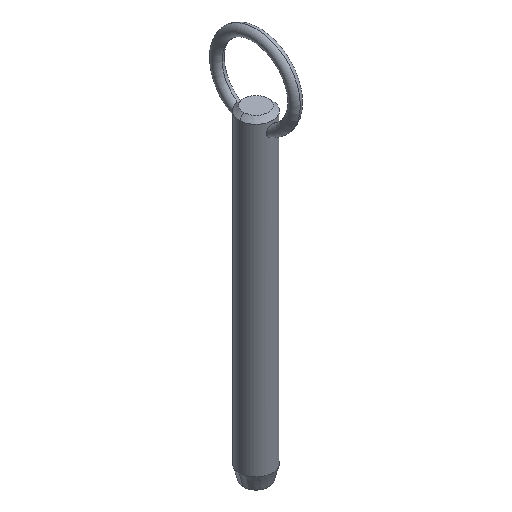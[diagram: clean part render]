
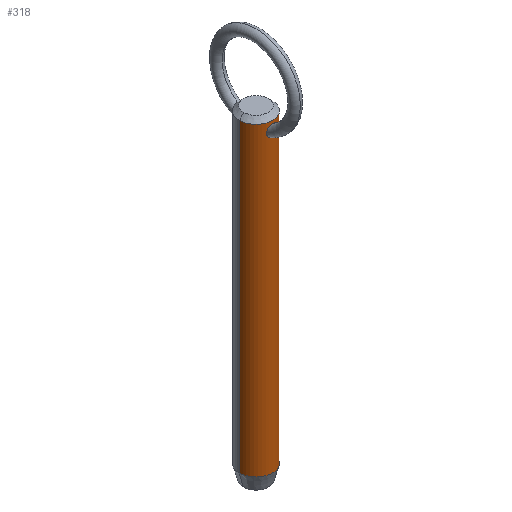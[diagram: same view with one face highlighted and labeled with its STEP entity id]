
A CAD part, isometric view. The second image highlights one B-rep face of the part: STEP entity #318.
In plain terms, the highlighted cylindrical face has radius 4.76 mm (diameter 9.52 mm), a partial arc.
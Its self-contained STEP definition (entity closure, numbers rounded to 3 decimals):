
#4 = CARTESIAN_POINT ( 'NONE',  ( 1.385, -4.554, 75.532 ) ) ;
#6 = CARTESIAN_POINT ( 'NONE',  ( 0., -4.76, 74.626 ) ) ;
#7 = FACE_OUTER_BOUND ( 'NONE', #245, .T. ) ;
#11 = CYLINDRICAL_SURFACE ( 'NONE', #28, 4.76 ) ;
#13 = ORIENTED_EDGE ( 'NONE', *, *, #431, .F. ) ;
#19 = CARTESIAN_POINT ( 'NONE',  ( -0.504, -4.734, 77.838 ) ) ;
#22 = DIRECTION ( 'NONE',  ( 0., 0., -1. ) ) ;
#28 = AXIS2_PLACEMENT_3D ( 'NONE', #85, #338, #89 ) ;
#29 = CARTESIAN_POINT ( 'NONE',  ( 1.404, -4.548, 76.753 ) ) ;
#31 = CARTESIAN_POINT ( 'NONE',  ( -0.932, -4.67, 77.545 ) ) ;
#35 = CARTESIAN_POINT ( 'NONE',  ( 1.19, -4.611, 77.224 ) ) ;
#38 = VERTEX_POINT ( 'NONE', #67 ) ;
#40 = EDGE_CURVE ( 'NONE', #352, #255, #84, .T. ) ;
#44 = CARTESIAN_POINT ( 'NONE',  ( 4.76, 0., 78.75 ) ) ;
#46 = CARTESIAN_POINT ( 'NONE',  ( 0.512, -4.733, 74.708 ) ) ;
#52 = LINE ( 'NONE', #56, #484 ) ;
#54 = EDGE_CURVE ( 'NONE', #38, #330, #240, .T. ) ;
#56 = CARTESIAN_POINT ( 'NONE',  ( 4.76, 0., 73.7 ) ) ;
#63 = CARTESIAN_POINT ( 'NONE',  ( -0.416, -4.746, 74.667 ) ) ;
#66 = CARTESIAN_POINT ( 'NONE',  ( 0., 0., -8.7 ) ) ;
#67 = CARTESIAN_POINT ( 'NONE',  ( 0., -4.76, 74.626 ) ) ;
#74 = CARTESIAN_POINT ( 'NONE',  ( 1.24, -4.596, 75.26 ) ) ;
#76 = CARTESIAN_POINT ( 'NONE',  ( 1.499, -4.518, 76.037 ) ) ;
#84 = LINE ( 'NONE', #324, #335 ) ;
#85 = CARTESIAN_POINT ( 'NONE',  ( 0., 0., 73.7 ) ) ;
#88 = CARTESIAN_POINT ( 'NONE',  ( 0.208, -4.757, 74.636 ) ) ;
#89 = DIRECTION ( 'NONE',  ( -1., 0., 0. ) ) ;
#105 = CARTESIAN_POINT ( 'NONE',  ( -1.039, -4.646, 75.026 ) ) ;
#107 = CARTESIAN_POINT ( 'NONE',  ( 0.409, -4.743, 77.878 ) ) ;
#116 = DIRECTION ( 'NONE',  ( 0., 0., 1. ) ) ;
#121 = CARTESIAN_POINT ( 'NONE',  ( 1.503, -4.517, 76.14 ) ) ;
#141 = EDGE_LOOP ( 'NONE', ( #341, #445 ) ) ;
#151 = CARTESIAN_POINT ( 'NONE',  ( -1.247, -4.596, 75.252 ) ) ;
#158 = CARTESIAN_POINT ( 'NONE',  ( -0.208, -4.757, 77.934 ) ) ;
#168 = CARTESIAN_POINT ( 'NONE',  ( 0.97, -4.662, 74.95 ) ) ;
#176 = CARTESIAN_POINT ( 'NONE',  ( 1.45, -4.534, 75.728 ) ) ;
#183 = CARTESIAN_POINT ( 'NONE',  ( 0., 0., 78.75 ) ) ;
#184 = EDGE_CURVE ( 'NONE', #371, #352, #327, .T. ) ;
#187 = CARTESIAN_POINT ( 'NONE',  ( -1.508, -4.515, 76.037 ) ) ;
#195 = CARTESIAN_POINT ( 'NONE',  ( 0.997, -4.655, 77.464 ) ) ;
#199 = CARTESIAN_POINT ( 'NONE',  ( 1.478, -4.525, 76.452 ) ) ;
#206 = EDGE_CURVE ( 'NONE', #255, #275, #253, .T. ) ;
#220 = AXIS2_PLACEMENT_3D ( 'NONE', #183, #478, #513 ) ;
#228 = ORIENTED_EDGE ( 'NONE', *, *, #40, .T. ) ;
#230 = CARTESIAN_POINT ( 'NONE',  ( 0., -4.76, 74.626 ) ) ;
#232 = CARTESIAN_POINT ( 'NONE',  ( -1.292, -4.582, 77.045 ) ) ;
#233 = CARTESIAN_POINT ( 'NONE',  ( 0.687, -4.711, 77.735 ) ) ;
#234 = CARTESIAN_POINT ( 'NONE',  ( -0.777, -4.7, 77.685 ) ) ;
#238 = ORIENTED_EDGE ( 'NONE', *, *, #184, .T. ) ;
#240 = B_SPLINE_CURVE_WITH_KNOTS ( 'NONE', 3,
 ( #230, #317, #63, #321, #278, #358, #105, #151, #446, #448, #187, #267, #315, #232, #518, #31, #234, #19, #410, #158, #488, #351 ),
 .UNSPECIFIED., .F., .F.,
 ( 4, 2, 2, 2, 2, 2, 2, 2, 2, 2, 4 ),
 ( 0.009, 0.01, 0.01, 0.011, 0.011, 0.012, 0.012, 0.013, 0.014, 0.014, 0.014 ),
 .UNSPECIFIED. ) ;
#245 = EDGE_LOOP ( 'NONE', ( #13, #238, #228, #428 ) ) ;
#250 = CARTESIAN_POINT ( 'NONE',  ( 0.797, -4.697, 74.829 ) ) ;
#251 = CARTESIAN_POINT ( 'NONE',  ( 0.105, -4.76, 74.626 ) ) ;
#253 = CIRCLE ( 'NONE', #397, 4.76 ) ;
#255 = VERTEX_POINT ( 'NONE', #320 ) ;
#261 = EDGE_CURVE ( 'NONE', #330, #38, #479, .T. ) ;
#267 = CARTESIAN_POINT ( 'NONE',  ( -1.487, -4.522, 76.453 ) ) ;
#270 = CARTESIAN_POINT ( 'NONE',  ( 0.506, -4.734, 77.837 ) ) ;
#275 = VERTEX_POINT ( 'NONE', #429 ) ;
#276 = CARTESIAN_POINT ( 'NONE',  ( 0.77, -4.698, 77.675 ) ) ;
#278 = CARTESIAN_POINT ( 'NONE',  ( -0.793, -4.694, 74.839 ) ) ;
#297 = CARTESIAN_POINT ( 'NONE',  ( 1.492, -4.52, 76.348 ) ) ;
#315 = CARTESIAN_POINT ( 'NONE',  ( -1.441, -4.537, 76.657 ) ) ;
#317 = CARTESIAN_POINT ( 'NONE',  ( -0.21, -4.76, 74.626 ) ) ;
#318 = ADVANCED_FACE ( 'NONE', ( #7, #452 ), #11, .T. ) ;
#320 = CARTESIAN_POINT ( 'NONE',  ( -4.76, 0., -8.7 ) ) ;
#321 = CARTESIAN_POINT ( 'NONE',  ( -0.703, -4.709, 74.789 ) ) ;
#323 = CARTESIAN_POINT ( 'NONE',  ( 0.925, -4.67, 77.539 ) ) ;
#324 = CARTESIAN_POINT ( 'NONE',  ( -4.76, 0., 73.7 ) ) ;
#327 = CIRCLE ( 'NONE', #220, 4.76 ) ;
#328 = CARTESIAN_POINT ( 'NONE',  ( 1.293, -4.582, 77.042 ) ) ;
#330 = VERTEX_POINT ( 'NONE', #385 ) ;
#335 = VECTOR ( 'NONE', #22, 1000. ) ;
#337 = CARTESIAN_POINT ( 'NONE',  ( 0.411, -4.743, 74.677 ) ) ;
#338 = DIRECTION ( 'NONE',  ( 0., 0., -1. ) ) ;
#341 = ORIENTED_EDGE ( 'NONE', *, *, #261, .T. ) ;
#351 = CARTESIAN_POINT ( 'NONE',  ( 0., -4.76, 77.948 ) ) ;
#352 = VERTEX_POINT ( 'NONE', #392 ) ;
#356 = DIRECTION ( 'NONE',  ( -1., 0., 0. ) ) ;
#358 = CARTESIAN_POINT ( 'NONE',  ( -0.961, -4.663, 74.957 ) ) ;
#371 = VERTEX_POINT ( 'NONE', #44 ) ;
#373 = CARTESIAN_POINT ( 'NONE',  ( 1.434, -4.539, 76.654 ) ) ;
#376 = CARTESIAN_POINT ( 'NONE',  ( 1.344, -4.567, 75.439 ) ) ;
#385 = CARTESIAN_POINT ( 'NONE',  ( 0., -4.76, 77.948 ) ) ;
#386 = CARTESIAN_POINT ( 'NONE',  ( 1.473, -4.526, 75.831 ) ) ;
#392 = CARTESIAN_POINT ( 'NONE',  ( -4.76, 0., 78.75 ) ) ;
#396 = DIRECTION ( 'NONE',  ( 0., 0., -1. ) ) ;
#397 = AXIS2_PLACEMENT_3D ( 'NONE', #66, #116, #356 ) ;
#410 = CARTESIAN_POINT ( 'NONE',  ( -0.409, -4.743, 77.878 ) ) ;
#422 = CARTESIAN_POINT ( 'NONE',  ( 1.178, -4.613, 75.176 ) ) ;
#428 = ORIENTED_EDGE ( 'NONE', *, *, #206, .T. ) ;
#429 = CARTESIAN_POINT ( 'NONE',  ( 4.76, 0., -8.7 ) ) ;
#431 = EDGE_CURVE ( 'NONE', #371, #275, #52, .T. ) ;
#445 = ORIENTED_EDGE ( 'NONE', *, *, #54, .T. ) ;
#446 = CARTESIAN_POINT ( 'NONE',  ( -1.353, -4.564, 75.435 ) ) ;
#448 = CARTESIAN_POINT ( 'NONE',  ( -1.483, -4.524, 75.826 ) ) ;
#452 = FACE_BOUND ( 'NONE', #141, .T. ) ;
#457 = CARTESIAN_POINT ( 'NONE',  ( 0.104, -4.76, 77.948 ) ) ;
#478 = DIRECTION ( 'NONE',  ( 0., 0., -1. ) ) ;
#479 = B_SPLINE_CURVE_WITH_KNOTS ( 'NONE', 3,
 ( #521, #457, #522, #107, #270, #233, #276, #323, #195, #35, #328, #29, #373, #199, #297, #121, #76, #386, #176, #4, #376, #74, #422, #168, #250, #46, #337, #88, #251, #6 ),
 .UNSPECIFIED., .F., .F.,
 ( 4, 2, 2, 2, 2, 2, 2, 2, 2, 2, 2, 2, 2, 2, 4 ),
 ( 0.004, 0.005, 0.005, 0.005, 0.006, 0.006, 0.007, 0.007, 0.007, 0.007, 0.008, 0.008, 0.009, 0.009, 0.009 ),
 .UNSPECIFIED. ) ;
#484 = VECTOR ( 'NONE', #396, 1000. ) ;
#488 = CARTESIAN_POINT ( 'NONE',  ( -0.103, -4.76, 77.948 ) ) ;
#513 = DIRECTION ( 'NONE',  ( 1., 0., 0. ) ) ;
#518 = CARTESIAN_POINT ( 'NONE',  ( -1.19, -4.611, 77.224 ) ) ;
#521 = CARTESIAN_POINT ( 'NONE',  ( 0., -4.76, 77.948 ) ) ;
#522 = CARTESIAN_POINT ( 'NONE',  ( 0.209, -4.756, 77.934 ) ) ;
